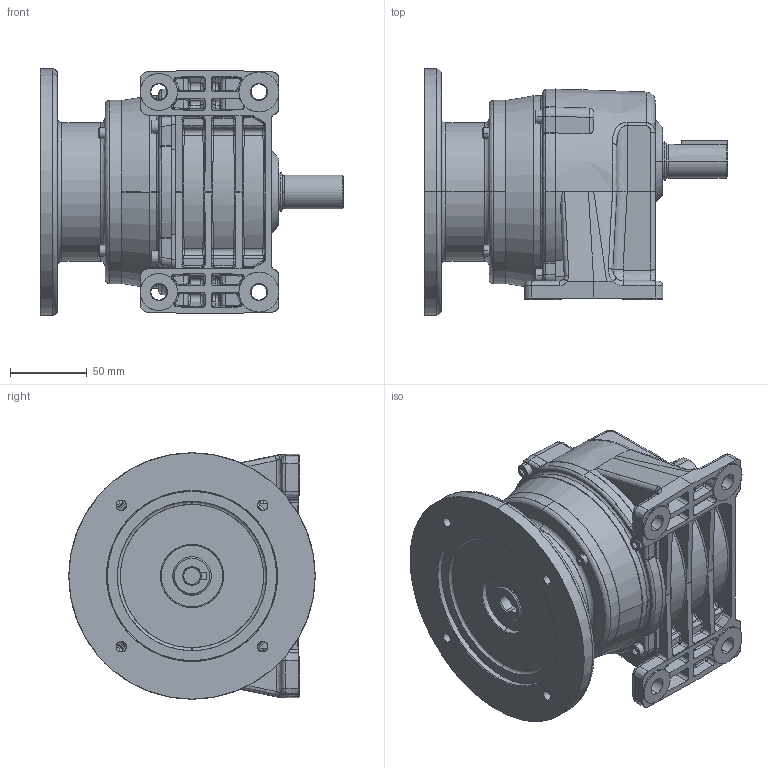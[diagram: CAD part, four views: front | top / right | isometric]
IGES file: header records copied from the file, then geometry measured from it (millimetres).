
Start section: SolidWorks IGES file using analytic representation for surfaces
Bounding box: 197 x 160 x 160 mm (x, y, z)
Surface area: 202160.6 mm2 (no closed solid volume)
Topology: 0 solids, 0 shells, 861 faces, 10183 edges, 10162 vertices
Faces by surface type: bspline 480, revolution 381
